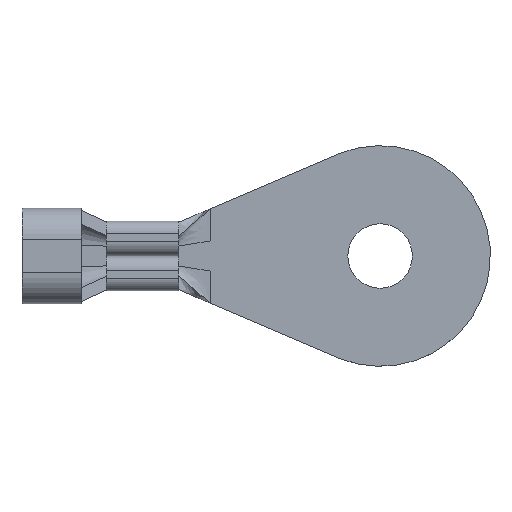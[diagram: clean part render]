
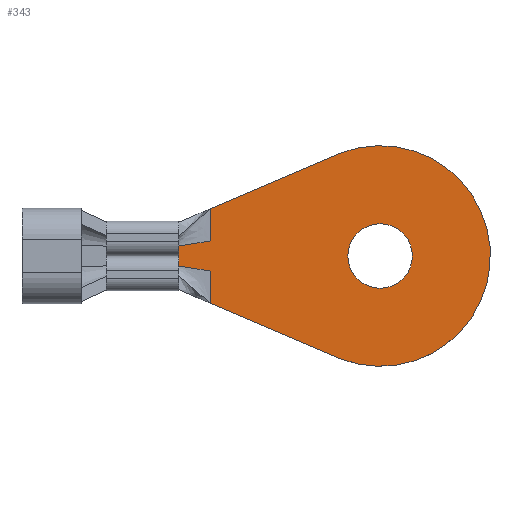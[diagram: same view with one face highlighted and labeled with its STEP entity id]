
A CAD part, top view. The second image highlights one B-rep face of the part: STEP entity #343.
In plain terms, the highlighted planar face has unit normal (0, 0, 1).
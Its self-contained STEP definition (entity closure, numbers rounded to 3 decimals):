
#61=AXIS2_PLACEMENT_3D('Circle Axis2P3D',#59,#60,$) ;
#140=AXIS2_PLACEMENT_3D('Circle Axis2P3D',#138,#139,$) ;
#175=AXIS2_PLACEMENT_3D('Circle Axis2P3D',#173,#174,$) ;
#294=AXIS2_PLACEMENT_3D('Plane Axis2P3D',#291,#292,#293) ;
#42=CARTESIAN_POINT('Vertex',(-3.103,-8.342,1.024)) ;
#56=CARTESIAN_POINT('Vertex',(-3.103,8.342,1.024)) ;
#59=CARTESIAN_POINT('Axis2P3D Location',(0.,0.,1.024)) ;
#87=CARTESIAN_POINT('Vertex',(-13.716,3.81,1.024)) ;
#90=CARTESIAN_POINT('Line Origine',(-8.41,6.076,1.024)) ;
#111=CARTESIAN_POINT('Vertex',(-13.716,-3.81,1.024)) ;
#121=CARTESIAN_POINT('Line Origine',(-8.41,-6.076,1.024)) ;
#138=CARTESIAN_POINT('Axis2P3D Location',(0.,0.,1.024)) ;
#142=CARTESIAN_POINT('Vertex',(-2.6,0.,1.024)) ;
#144=CARTESIAN_POINT('Vertex',(2.6,0.,1.024)) ;
#173=CARTESIAN_POINT('Axis2P3D Location',(0.,0.,1.024)) ;
#291=CARTESIAN_POINT('Axis2P3D Location',(0.,0.,1.024)) ;
#296=CARTESIAN_POINT('Line Origine',(-13.716,2.511,1.024)) ;
#300=CARTESIAN_POINT('Vertex',(-13.716,1.213,1.024)) ;
#303=CARTESIAN_POINT('Line Origine',(-14.986,1.006,1.024)) ;
#307=CARTESIAN_POINT('Vertex',(-16.256,0.8,1.024)) ;
#310=CARTESIAN_POINT('Line Origine',(-16.256,0.,1.024)) ;
#314=CARTESIAN_POINT('Vertex',(-16.256,-0.8,1.024)) ;
#317=CARTESIAN_POINT('Line Origine',(-14.986,-1.006,1.024)) ;
#321=CARTESIAN_POINT('Vertex',(-13.716,-1.213,1.024)) ;
#324=CARTESIAN_POINT('Line Origine',(-13.716,-2.511,1.024)) ;
#60=DIRECTION('Axis2P3D Direction',(0.,0.,1.)) ;
#91=DIRECTION('Vector Direction',(-0.92,-0.393,0.)) ;
#122=DIRECTION('Vector Direction',(0.92,-0.393,0.)) ;
#139=DIRECTION('Axis2P3D Direction',(0.,0.,1.)) ;
#174=DIRECTION('Axis2P3D Direction',(0.,0.,1.)) ;
#292=DIRECTION('Axis2P3D Direction',(0.,0.,1.)) ;
#293=DIRECTION('Axis2P3D XDirection',(1.,0.,0.)) ;
#297=DIRECTION('Vector Direction',(0.,1.,0.)) ;
#304=DIRECTION('Vector Direction',(0.987,0.16,0.)) ;
#311=DIRECTION('Vector Direction',(0.,1.,0.)) ;
#318=DIRECTION('Vector Direction',(0.987,-0.16,0.)) ;
#325=DIRECTION('Vector Direction',(0.,1.,0.)) ;
#92=VECTOR('Line Direction',#91,1.) ;
#123=VECTOR('Line Direction',#122,1.) ;
#298=VECTOR('Line Direction',#297,1.) ;
#305=VECTOR('Line Direction',#304,1.) ;
#312=VECTOR('Line Direction',#311,1.) ;
#319=VECTOR('Line Direction',#318,1.) ;
#326=VECTOR('Line Direction',#325,1.) ;
#330=ORIENTED_EDGE('',*,*,#63,.T.) ;
#331=ORIENTED_EDGE('',*,*,#94,.T.) ;
#332=ORIENTED_EDGE('',*,*,#302,.T.) ;
#333=ORIENTED_EDGE('',*,*,#309,.F.) ;
#334=ORIENTED_EDGE('',*,*,#316,.T.) ;
#335=ORIENTED_EDGE('',*,*,#323,.T.) ;
#336=ORIENTED_EDGE('',*,*,#328,.T.) ;
#337=ORIENTED_EDGE('',*,*,#125,.T.) ;
#340=ORIENTED_EDGE('',*,*,#177,.F.) ;
#341=ORIENTED_EDGE('',*,*,#146,.F.) ;
#342=FACE_BOUND('',#339,.T.) ;
#343=ADVANCED_FACE('PartBody',(#338,#342),#295,.T.) ;
#62=CIRCLE('generated circle',#61,8.9) ;
#141=CIRCLE('generated circle',#140,2.6) ;
#176=CIRCLE('generated circle',#175,2.6) ;
#63=EDGE_CURVE('',#43,#57,#62,.T.) ;
#94=EDGE_CURVE('',#57,#88,#93,.T.) ;
#125=EDGE_CURVE('',#112,#43,#124,.T.) ;
#146=EDGE_CURVE('',#143,#145,#141,.T.) ;
#177=EDGE_CURVE('',#145,#143,#176,.T.) ;
#302=EDGE_CURVE('',#88,#301,#299,.F.) ;
#309=EDGE_CURVE('',#308,#301,#306,.T.) ;
#316=EDGE_CURVE('',#308,#315,#313,.F.) ;
#323=EDGE_CURVE('',#315,#322,#320,.T.) ;
#328=EDGE_CURVE('',#322,#112,#327,.F.) ;
#329=EDGE_LOOP('',(#330,#331,#332,#333,#334,#335,#336,#337)) ;
#339=EDGE_LOOP('',(#340,#341)) ;
#338=FACE_OUTER_BOUND('',#329,.T.) ;
#93=LINE('Line',#90,#92) ;
#124=LINE('Line',#121,#123) ;
#299=LINE('Line',#296,#298) ;
#306=LINE('Line',#303,#305) ;
#313=LINE('Line',#310,#312) ;
#320=LINE('Line',#317,#319) ;
#327=LINE('Line',#324,#326) ;
#295=PLANE('',#294) ;
#43=VERTEX_POINT('',#42) ;
#57=VERTEX_POINT('',#56) ;
#88=VERTEX_POINT('',#87) ;
#112=VERTEX_POINT('',#111) ;
#143=VERTEX_POINT('',#142) ;
#145=VERTEX_POINT('',#144) ;
#301=VERTEX_POINT('',#300) ;
#308=VERTEX_POINT('',#307) ;
#315=VERTEX_POINT('',#314) ;
#322=VERTEX_POINT('',#321) ;
